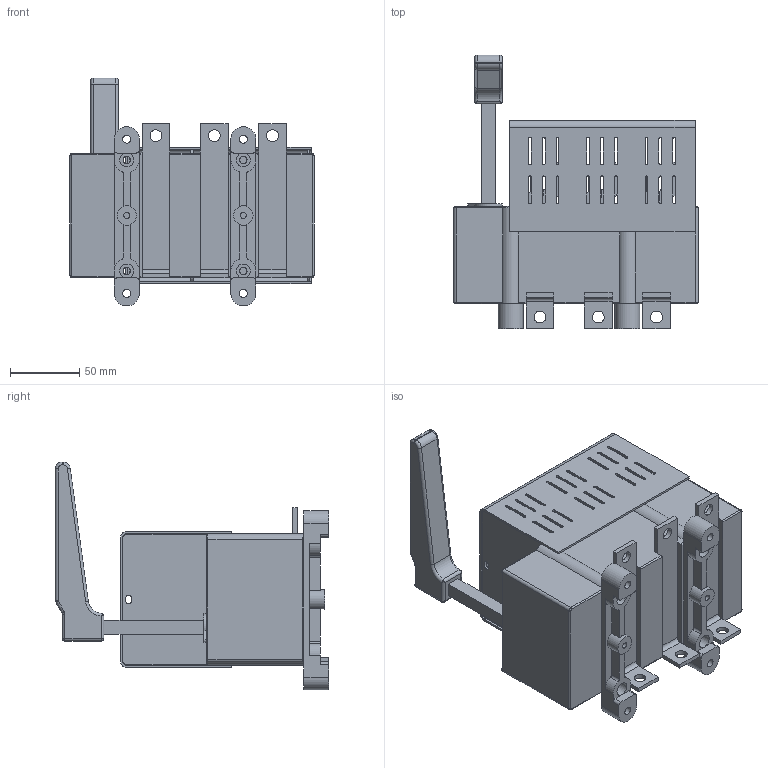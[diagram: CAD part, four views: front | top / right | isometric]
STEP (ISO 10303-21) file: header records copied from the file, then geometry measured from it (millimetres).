
FILE_DESCRIPTION(/* description */ (''),/* implementation_level */ '2;1');
FILE_NAME(/* name */ 'RAB 00 P3 B-R.stp',/* time_stamp */ '2021-08-19T11:29:07+02:00',/* author */ (''),/* organization */ (''),/* preprocessor_version */ 'ST-DEVELOPER v18.1',/* originating_system */ 'SIEMENS PLM Software NX 1965',/* authorisation */ '');
FILE_SCHEMA (('AUTOMOTIVE_DESIGN { 1 0 10303 214 3 1 1 1 }'));
Length unit declared in the file: millimetre
Products named in the file (1): RAB 00 P3 B-R_stp
Bounding box: 176 x 197 x 164.18 mm (x, y, z)
Volume: 1287162.6 mm3; surface area: 232028.6 mm2
Topology: 1 solids, 1 shells, 889 faces, 2505 edges, 1621 vertices
Faces by surface type: plane 538, cylinder 325, torus 15, sphere 6, bspline 5
Full cylindrical faces by diameter (mm): 2.7 x4, 4.3 x2, 5 x6, 5.3 x4, 5.8 x4, 8.5 x6, 10 x8, 14 x2
Entity records: 28631 total; most frequent: CARTESIAN_POINT 5150, ORIENTED_EDGE 4880, DIRECTION 4848, EDGE_CURVE 2440, LINE 1740, VECTOR 1740, VERTEX_POINT 1598, AXIS2_PLACEMENT_3D 1554
